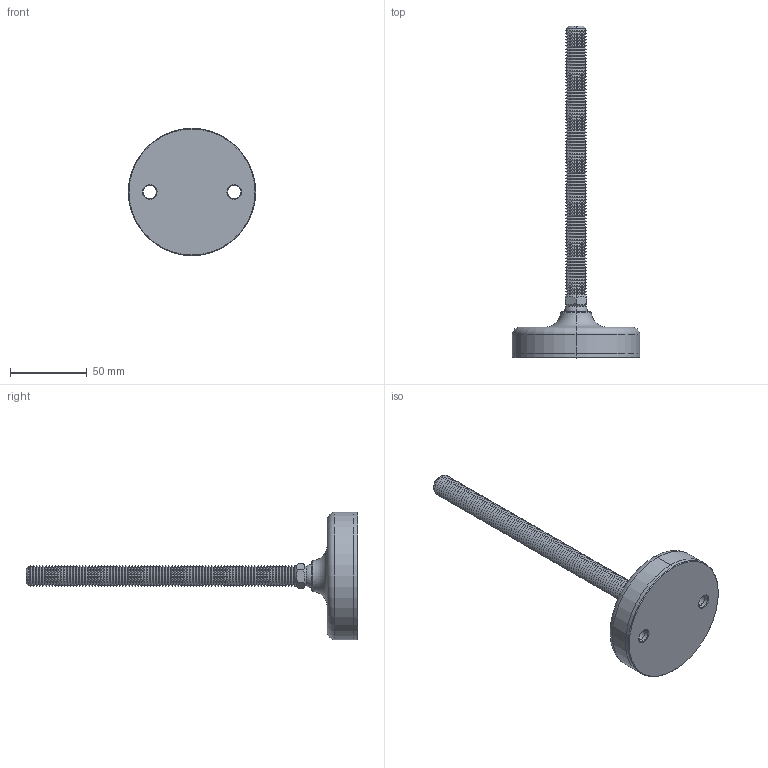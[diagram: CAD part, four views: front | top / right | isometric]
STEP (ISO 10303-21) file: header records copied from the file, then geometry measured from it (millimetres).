
FILE_DESCRIPTION (( 'STEP AP203' ), '1' );
FILE_NAME ('34724.W1405.step', '2019-11-28T22:10:52', ( '' ), ( '' ), 'SwSTEP 2.0', 'SolidWorks 2017', '' );
FILE_SCHEMA (( 'CONFIG_CONTROL_DESIGN' ));
Length unit declared in the file: millimetre
Products named in the file (4): 34724.W1405; Part2_34724.W1405; Part3_34724.W1405; Part1_34724.W1405
Assembly tree (3 placements, depth 2):
  34724.W1405
    Part1_34724.W1405
    Part2_34724.W1405
    Part3_34724.W1405
Bounding box: 83 x 216 x 83 mm (x, y, z)
Volume: 131881.5 mm3; surface area: 41839.5 mm2
Topology: 3 solids, 3 shells, 400 faces, 815 edges, 421 vertices
Faces by surface type: cone 366, plane 14, cylinder 12, sphere 4, torus 4
Entity records: 10658 total; most frequent: DIRECTION 2016, CARTESIAN_POINT 1772, ORIENTED_EDGE 1612, AXIS2_PLACEMENT_3D 816, EDGE_CURVE 806, VERTEX_POINT 416, EDGE_LOOP 412, CIRCLE 410
